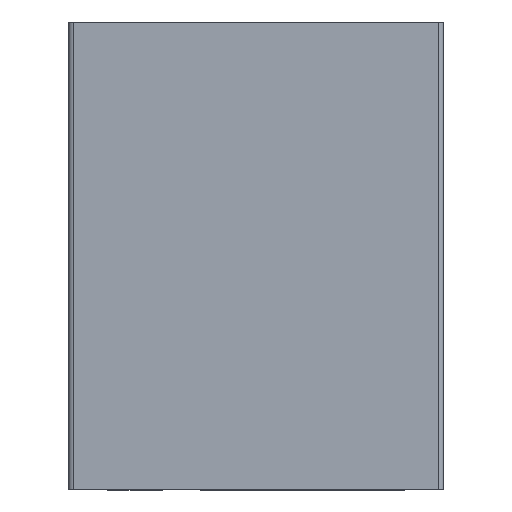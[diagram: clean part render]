
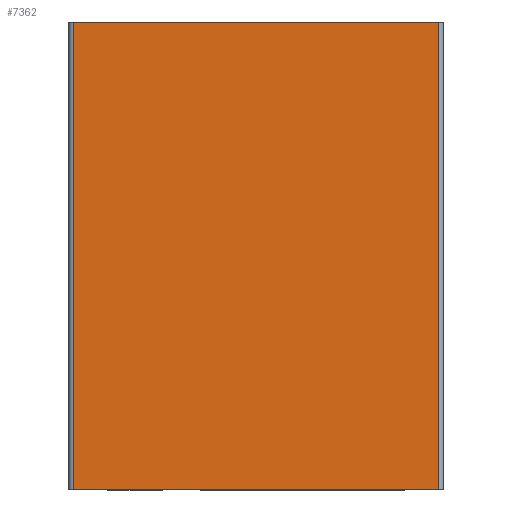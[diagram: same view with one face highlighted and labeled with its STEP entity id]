
A CAD part, left-side view. The second image highlights one B-rep face of the part: STEP entity #7362.
In plain terms, the highlighted planar face has unit normal (-1, 0, 0).
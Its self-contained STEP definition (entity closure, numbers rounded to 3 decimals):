
#539=CARTESIAN_POINT('',(-20.,-19.,100.0));
#540=VERTEX_POINT('',#539);
#541=CARTESIAN_POINT('',(-20.,59.,100.0));
#542=VERTEX_POINT('',#541);
#543=CARTESIAN_POINT('',(-20.,-19.,100.0));
#544=DIRECTION('',(0.0,1.0,0.0));
#545=VECTOR('',#544,78.);
#546=LINE('',#543,#545);
#547=EDGE_CURVE('',#540,#542,#546,.T.);
#2341=CARTESIAN_POINT('',(-20.,-19.,0.0));
#2342=VERTEX_POINT('',#2341);
#2343=CARTESIAN_POINT('',(-20.,-19.,100.0));
#2344=DIRECTION('',(0.0,0.0,-1.0));
#2345=VECTOR('',#2344,100.0);
#2346=LINE('',#2343,#2345);
#2347=EDGE_CURVE('',#540,#2342,#2346,.T.);
#2372=CARTESIAN_POINT('',(-20.,59.,0.0));
#2373=VERTEX_POINT('',#2372);
#2374=CARTESIAN_POINT('',(-20.0,59.,0.0));
#2375=DIRECTION('',(0.0,-1.0,0.0));
#2376=VECTOR('',#2375,78.);
#2377=LINE('',#2374,#2376);
#2378=EDGE_CURVE('',#2373,#2342,#2377,.T.);
#4166=CARTESIAN_POINT('',(-20.,59.,0.0));
#4167=DIRECTION('',(0.0,0.0,1.0));
#4168=VECTOR('',#4167,100.0);
#4169=LINE('',#4166,#4168);
#4170=EDGE_CURVE('',#2373,#542,#4169,.T.);
#7351=CARTESIAN_POINT('',(-20.,-20.,0.0));
#7352=DIRECTION('',(-1.0,0.0,0.0));
#7353=DIRECTION('',(0.0,0.0,1.0));
#7354=AXIS2_PLACEMENT_3D('',#7351,#7352,#7353);
#7355=PLANE('',#7354);
#7356=ORIENTED_EDGE('',*,*,#2347,.F.);
#7357=ORIENTED_EDGE('',*,*,#547,.T.);
#7358=ORIENTED_EDGE('',*,*,#4170,.F.);
#7359=ORIENTED_EDGE('',*,*,#2378,.T.);
#7360=EDGE_LOOP('',(#7356,#7357,#7358,#7359));
#7361=FACE_OUTER_BOUND('',#7360,.T.);
#7362=ADVANCED_FACE('',(#7361),#7355,.T.);
